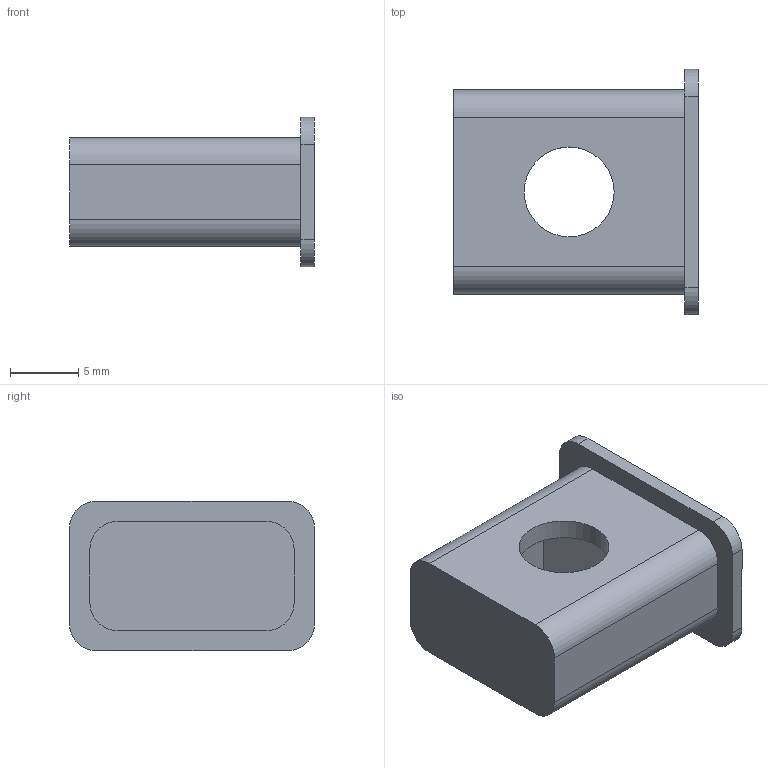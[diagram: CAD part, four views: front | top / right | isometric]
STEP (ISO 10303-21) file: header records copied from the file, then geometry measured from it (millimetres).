
FILE_DESCRIPTION(/* description */ ('SUPPORT D''ECROU SERRAGE COLLIER','CAx-IF Rec.Pracs.---Representation and Presentation of Product Manufacturing Information (PMI)---4.0---2014-10-13'),/* implementation_level */ '2;1');
FILE_NAME(/* name */ 'o064822-B.stp',/* time_stamp */ '2025-06-19T17:06:40+02:00',/* author */ ('hsaintil'),/* organization */ (''),/* preprocessor_version */ 'ST-DEVELOPER v20',/* originating_system */ 'Autodesk Inventor 2025',/* authorisation */ '');
FILE_SCHEMA (('AP242_MANAGED_MODEL_BASED_3D_ENGINEERING_MIM_LF { 1 0 10303 442 1 1 4 }'));
Length unit declared in the file: millimetre
Products named in the file (1): OUTIL.06.48.22
Bounding box: 18 x 18 x 11 mm (x, y, z)
Volume: 1527.7 mm3; surface area: 1361.9 mm2
Topology: 1 solids, 1 shells, 27 faces, 69 edges, 46 vertices
Faces by surface type: plane 18, cylinder 9
Full cylindrical faces by diameter (mm): 6.6 x1
Entity records: 1094 total; most frequent: CARTESIAN_POINT 222, DIRECTION 155, ORIENTED_EDGE 138, EDGE_CURVE 69, AXIS2_PLACEMENT_3D 52, LINE 51, VECTOR 51, VERTEX_POINT 46
